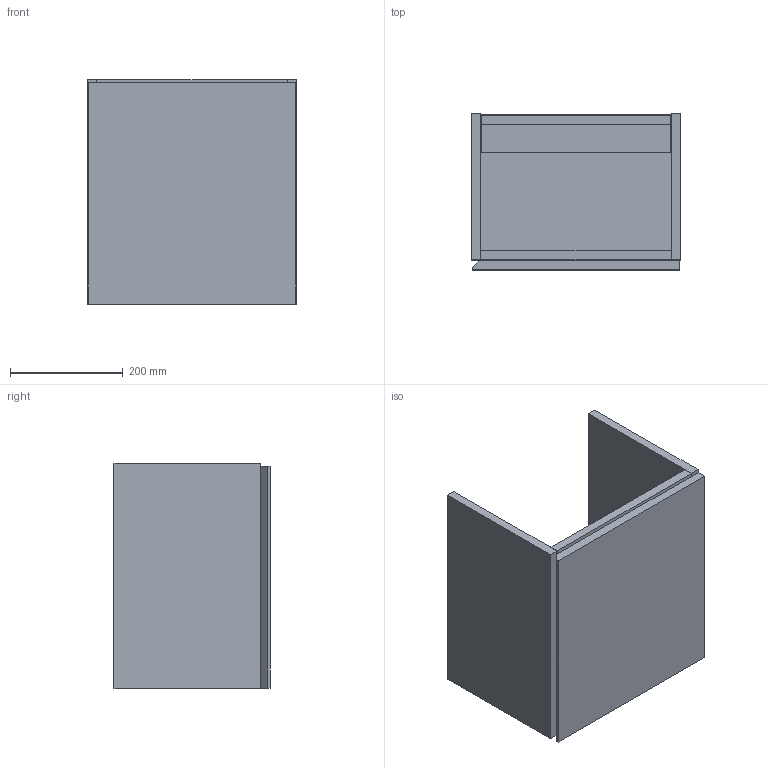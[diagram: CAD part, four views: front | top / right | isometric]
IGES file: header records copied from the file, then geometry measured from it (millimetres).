
Global section: file name: 510015; native system: Autodesk Inventor 2023; preprocessor: unknown; author: JANAN; date: 20241002.131422; units: millimetre
Bounding box: 370 x 277 x 400 mm (x, y, z)
Volume: 7889364.8 mm3; surface area: 1099295.8 mm2
Topology: 6 solids, 6 shells, 41 faces, 87 edges, 58 vertices
Faces by surface type: bspline 41
